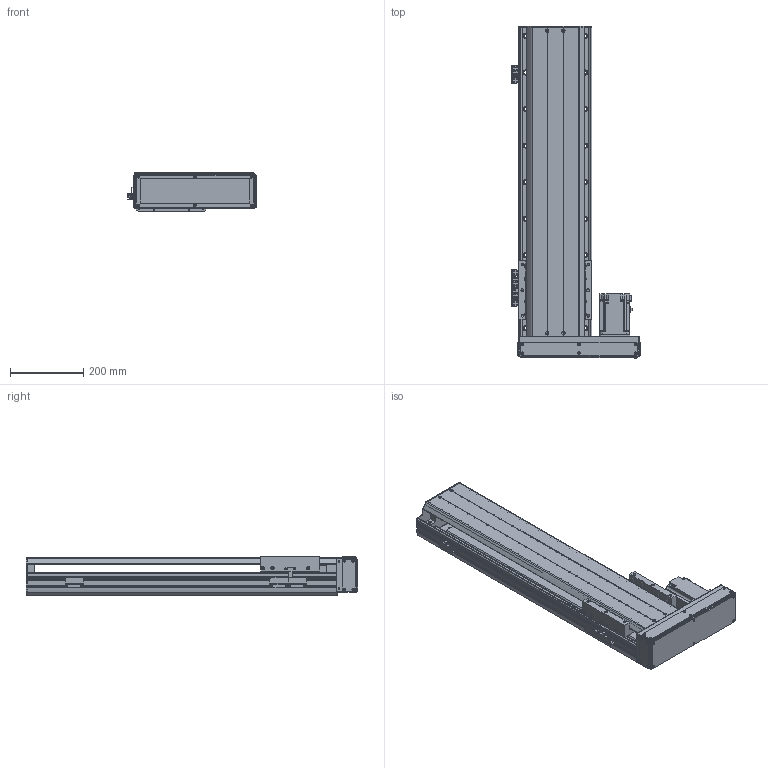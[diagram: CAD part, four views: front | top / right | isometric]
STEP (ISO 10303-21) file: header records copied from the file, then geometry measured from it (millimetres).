
FILE_DESCRIPTION(/* description */ ('MANUFACTURE'),/* implementation_level */ '2;1');
FILE_NAME(/* name */ '\\192.168.0.160\disk1\HAN SHIN Master\B-설계부문\C-표준\B-2024년\BC02-표준도면\+로봇 개선표준도면\홈페이지 표준 도면\홈페이지 최종 작업 폴더\3D\HR\HR200\HG200병렬\우병렬\HR200-R70-N-0600-L10.stp',/* time_stamp */ '2025-01-18T11:30:48+09:00',/* author */ ('user'),/* organization */ (''),/* preprocessor_version */ 'ST-DEVELOPER v18.1',/* originating_system */ 'Autodesk Inventor 2022',/* authorisation */ 'LIP');
FILE_SCHEMA (('AUTOMOTIVE_DESIGN { 1 0 10303 214 3 1 1 }'));
Products named in the file (19): HG200-L70-N-0500-R10; HR200 S BASE-개선; HR180 FRONT BLOCK; HR180 FRONT BLOCK_1; HR200 S UPCOVER; HR200 TABLE (W,N); 750W MOTOR PLATE; HG200 750W LR MOTOR PLATE-사출; hg-kr73_; 화살표; HR160 400W LR BELT COVER; HR200 ACRYL COVER -1; HR200 ACRYL COVER -1_1; HR200 ACRYL COVER -1_2; HG200 BOTTOM COVER; HR200 SENSOR DOG; SENSOR BRK(EE-SX674A); EE_SX674A; HR200 FRONT COVER
Assembly tree (24 placements, depth 2):
  HG200-L70-N-0500-R10
    HR200 S BASE-개선
    HR180 FRONT BLOCK
    HR180 FRONT BLOCK_1
    HR200 S UPCOVER
    HR200 TABLE (W,N)
    750W MOTOR PLATE
    HG200 750W LR MOTOR PLATE-사출
    hg-kr73_
    화살표  x2
    HR160 400W LR BELT COVER
    HR200 ACRYL COVER -1
    HR200 ACRYL COVER -1_1
    HR200 ACRYL COVER -1_2  x2
    HG200 BOTTOM COVER
    HR200 SENSOR DOG
    EE_SX674A  x3
    SENSOR BRK(EE-SX674A)  x3
    HR200 FRONT COVER
Bounding box: 351 x 908 x 109 mm (x, y, z)
Volume: 6498950.9 mm3; surface area: 1752388 mm2
Topology: 24 solids, 24 shells, 3354 faces, 9491 edges, 6275 vertices
Faces by surface type: plane 2480, cylinder 744, cone 126, sphere 4
Full cylindrical faces by diameter (mm): 2.459 x50, 3 x10, 3.242 x18, 3.4 x20, 3.5 x6, 4 x6, 4.134 x10, 4.5 x14, 4.917 x30, 5 x20, 5.5 x5, 5.9 x4, 6 x6, 6.6 x24, 6.647 x28, 7 x4, 7.6 x4, 8 x4, 9 x30, 9.5 x1, 11 x24, 14 x18, 19 x1, 25 x1, 27 x1, 30 x1, 32 x1, 38 x1, 42 x2, 44.5 x1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
Entity records: 105100 total; most frequent: CARTESIAN_POINT 20153, ORIENTED_EDGE 17758, DIRECTION 16511, EDGE_CURVE 8879, LINE 7267, VECTOR 7267, VERTEX_POINT 5927, AXIS2_PLACEMENT_3D 4622
